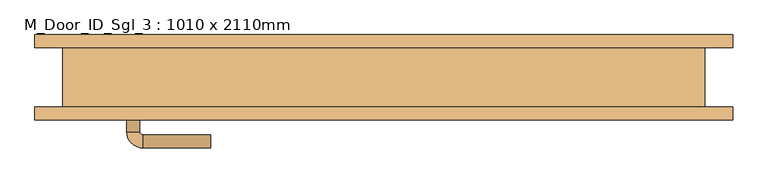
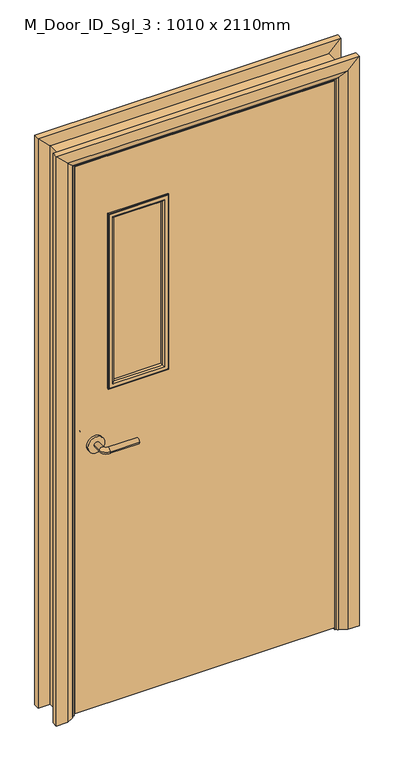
"""IFC4 building model written with IfcOpenShell, lengths in millimetres: door geometry, M_Door_ID_Sgl_3 : 1010 x 2110mm."""

from ifc_helpers import new_model, si_unit, point, frame, frame_2d, origin, place, context, project, spatial, polyline, circle_curve, ellipse_curve, trimmed, segment, composite_curve, outline, extrude, faceted_brep, source, transform, mapped, element, save
from ifc_brep_helpers import plane_surface, cylinder_surface, revolved_surface, advanced_brep


def m_door_id_sgl_3_1010_x_2110mm_74f3b16c(model_context):
    return source(origin(), model_context, "Body", "SolidModel", [
        advanced_brep(
        [(-398.0, 0.0, 1000.0), (-378.0, 0.0, 1000.0), (-398.0, 30.0, 1000.0), (-378.0, 30.0, 1000.0), (-373.0, 35.0, 1000.0), (-373.0, 55.0, 1000.0), (-268.0, 55.0, 1000.0), (-268.0, 35.0, 1000.0)],
        [
            (0, 1, circle_curve(frame((-388.0, 0.0, 1000.0), z_axis=(0.0, -1.0, 0.0), x_axis=(1.0, 0.0, 0.0)), 10.0)),
            (1, 0, circle_curve(frame((-388.0, 0.0, 1000.0), z_axis=(0.0, -1.0, 0.0), x_axis=(1.0, 0.0, 0.0)), 10.0)),
            (0, 2),
            (2, 3, circle_curve(frame((-388.0, 30.0, 1000.0), z_axis=(0.0, -1.0, 0.0), x_axis=(1.0, 0.0, 0.0)), 10.0)),
            (3, 1),
            (3, 2, circle_curve(frame((-388.0, 30.0, 1000.0), z_axis=(0.0, -1.0, 0.0), x_axis=(1.0, 0.0, 0.0)), 10.0)),
            (4, 3, circle_curve(frame((-373.0, 30.0, 1000.0), z_axis=(0.0, 0.0, 1.0), x_axis=(-1.0, 0.0, 0.0)), 5.0)),
            (2, 5, circle_curve(frame((-373.0, 30.0, 1000.0), z_axis=(0.0, 0.0, -1.0), x_axis=(-1.0, 0.0, 0.0)), 25.0)),
            (5, 4, circle_curve(frame((-373.0, 45.0, 1000.0), z_axis=(-1.0, 0.0, 0.0), x_axis=(0.0, -1.0, 0.0)), 10.0)),
            (4, 5, circle_curve(frame((-373.0, 45.0, 1000.0), z_axis=(-1.0, 0.0, 0.0), x_axis=(0.0, -1.0, 0.0)), 10.0)),
            (6, 7, circle_curve(frame((-268.0, 45.0, 1000.0), z_axis=(1.0, 0.0, 0.0), x_axis=(0.0, -1.0, 0.0)), 10.0)),
            (7, 6, circle_curve(frame((-268.0, 45.0, 1000.0), z_axis=(1.0, 0.0, 0.0), x_axis=(0.0, -1.0, 0.0)), 10.0)),
            (5, 6),
            (7, 4),
        ],
        [
            plane_surface(frame((-388.0, 0.0, 1000.0), z_axis=(0.0, -1.0, 0.0), x_axis=(0.0, 0.0, 1.0))),
            cylinder_surface(frame((-388.0, 0.0, 1000.0), z_axis=(0.0, -1.0, 0.0), x_axis=(1.0, 0.0, 0.0)), 10.0),
            revolved_surface(trimmed(ellipse_curve(frame((-388.0, 30.0, 1000.0), z_axis=(0.0, -1.0, 0.0), x_axis=(1.0, 0.0, 0.0)), 10.0, 10.0), [point((-398.0, 30.0, 1000.0))], [point((-378.0, 30.0, 1000.0))], True, "CARTESIAN"), (-373.0, 30.0, 1000.0), (0.0, 0.0, -1.0)),
            revolved_surface(trimmed(ellipse_curve(frame((-388.0, 30.0, 1000.0), z_axis=(0.0, -1.0, 0.0), x_axis=(1.0, 0.0, 0.0)), 10.0, 10.0), [point((-378.0, 30.0, 1000.0))], [point((-398.0, 30.0, 1000.0))], True, "CARTESIAN"), (-373.0, 30.0, 1000.0), (0.0, 0.0, -1.0)),
            plane_surface(frame((-268.0, 45.0, 1000.0), z_axis=(1.0, 0.0, 0.0), x_axis=(0.0, 0.0, 1.0))),
            cylinder_surface(frame((-373.0, 45.0, 1000.0), z_axis=(-1.0, 0.0, 0.0), x_axis=(0.0, -1.0, 0.0)), 10.0),
        ],
        [
            (0, [[1, 2]]),
            (1, [[-1, 3, 4, 5]]),
            (1, [[-2, -5, 6, -3]]),
            (2, [[7, -4, 8, 9]]),
            (3, [[-8, -6, -7, 10]]),
            (4, [[11, 12]]),
            (5, [[-9, 13, -12, 14]]),
            (5, [[-10, -14, -11, -13]]),
        ],
    ),
        extrude(outline(composite_curve([segment(trimmed(circle_curve(frame_2d((1000.0, -390.5)), 30.0), [point((1000.0, -420.5))], [point((1000.0, -360.5))], False, "CARTESIAN"), True, "CONTINUOUS"), segment(trimmed(circle_curve(frame_2d((1000.0, -390.5)), 30.0), [point((1000.0, -360.5))], [point((1000.0, -420.5))], False, "CARTESIAN"), True, "CONTINUOUS")], self_intersect=False)), frame((0.0, -8.0, 0.0), z_axis=(0.0, 1.0, 0.0), x_axis=(0.0, 0.0, 1.0)), (0.0, 0.0, 1.0), 8.0),
        advanced_brep(
        [(-398.0, -54.0, 1000.0), (-378.0, -54.0, 1000.0), (-378.0, -84.0, 1000.0), (-398.0, -84.0, 1000.0), (-373.0, -89.0, 1000.0), (-373.0, -109.0, 1000.0), (-268.0, -109.0, 1000.0), (-268.0, -89.0, 1000.0)],
        [
            (0, 1, circle_curve(frame((-388.0, -54.0, 1000.0), z_axis=(0.0, 1.0, 0.0), x_axis=(1.0, 0.0, 0.0)), 10.0)),
            (1, 0, circle_curve(frame((-388.0, -54.0, 1000.0), z_axis=(0.0, 1.0, 0.0), x_axis=(1.0, 0.0, 0.0)), 10.0)),
            (1, 2),
            (2, 3, circle_curve(frame((-388.0, -84.0, 1000.0), z_axis=(0.0, 1.0, 0.0), x_axis=(1.0, 0.0, 0.0)), 10.0)),
            (3, 0),
            (3, 2, circle_curve(frame((-388.0, -84.0, 1000.0), z_axis=(0.0, 1.0, 0.0), x_axis=(1.0, 0.0, 0.0)), 10.0)),
            (4, 5, circle_curve(frame((-373.0, -99.0, 1000.0), z_axis=(-1.0, 0.0, 0.0), x_axis=(0.0, 1.0, 0.0)), 10.0)),
            (5, 3, circle_curve(frame((-373.0, -84.0, 1000.0), z_axis=(0.0, 0.0, -1.0), x_axis=(-1.0, 0.0, 0.0)), 25.0)),
            (2, 4, circle_curve(frame((-373.0, -84.0, 1000.0), z_axis=(0.0, 0.0, 1.0), x_axis=(-1.0, 0.0, 0.0)), 5.0)),
            (5, 4, circle_curve(frame((-373.0, -99.0, 1000.0), z_axis=(-1.0, 0.0, 0.0), x_axis=(0.0, 1.0, 0.0)), 10.0)),
            (6, 7, circle_curve(frame((-268.0, -99.0, 1000.0), z_axis=(1.0, 0.0, 0.0), x_axis=(0.0, 1.0, 0.0)), 10.0)),
            (7, 6, circle_curve(frame((-268.0, -99.0, 1000.0), z_axis=(1.0, 0.0, 0.0), x_axis=(0.0, 1.0, 0.0)), 10.0)),
            (4, 7),
            (6, 5),
        ],
        [
            plane_surface(frame((-388.0, -54.0, 1000.0), z_axis=(0.0, 1.0, 0.0), x_axis=(0.0, 0.0, 1.0))),
            cylinder_surface(frame((-388.0, -54.0, 1000.0), z_axis=(0.0, 1.0, 0.0), x_axis=(1.0, 0.0, 0.0)), 10.0),
            revolved_surface(trimmed(ellipse_curve(frame((-388.0, -84.0, 1000.0), z_axis=(0.0, -1.0, 0.0), x_axis=(1.0, 0.0, 0.0)), 10.0, 10.0), [point((-398.0, -84.0, 1000.0))], [point((-378.0, -84.0, 1000.0))], True, "CARTESIAN"), (-373.0, -84.0, 1000.0), (0.0, 0.0, -1.0)),
            revolved_surface(trimmed(ellipse_curve(frame((-388.0, -84.0, 1000.0), z_axis=(0.0, -1.0, 0.0), x_axis=(1.0, 0.0, 0.0)), 10.0, 10.0), [point((-378.0, -84.0, 1000.0))], [point((-398.0, -84.0, 1000.0))], True, "CARTESIAN"), (-373.0, -84.0, 1000.0), (0.0, 0.0, -1.0)),
            plane_surface(frame((-268.0, -99.0, 1000.0), z_axis=(1.0, 0.0, 0.0), x_axis=(0.0, 0.0, 1.0))),
            cylinder_surface(frame((-373.0, -99.0, 1000.0), z_axis=(-1.0, 0.0, 0.0), x_axis=(0.0, 1.0, 0.0)), 10.0),
        ],
        [
            (0, [[1, 2]]),
            (1, [[3, 4, 5, -2]]),
            (1, [[-5, 6, -3, -1]]),
            (2, [[7, 8, -4, 9]]),
            (3, [[10, -9, -6, -8]]),
            (4, [[11, 12]]),
            (5, [[13, -11, 14, -7]]),
            (5, [[-14, -12, -13, -10]]),
        ],
    ),
        extrude(outline(composite_curve([segment(trimmed(circle_curve(frame_2d((1000.0, -390.5)), 30.0), [point((1000.0, -420.5))], [point((1000.0, -360.5))], False, "CARTESIAN"), True, "CONTINUOUS"), segment(trimmed(circle_curve(frame_2d((1000.0, -390.5)), 30.0), [point((1000.0, -360.5))], [point((1000.0, -420.5))], False, "CARTESIAN"), True, "CONTINUOUS")], self_intersect=False)), frame((0.0, -54.0, 0.0), z_axis=(0.0, 1.0, 0.0), x_axis=(0.0, 0.0, 1.0)), (0.0, 0.0, 1.0), 8.0),
        extrude(outline(polyline([(2068.0, -463.0), (8.0, -463.0), (8.0, 463.0), (2068.0, 463.0), (2068.0, -463.0)]), holes=[polyline([(1843.0, -138.0), (1200.0, -138.0), (1200.0, -338.0), (1843.0, -338.0), (1843.0, -138.0)])]), frame((0.0, -46.0, 0.0), z_axis=(0.0, 1.0, 0.0), x_axis=(0.0, 0.0, 1.0)), (0.0, 0.0, 1.0), 38.0),
        faceted_brep([(-465.0, -46.0, 0.0), (-497.0, -46.0, 0.0), (-497.0, 46.0, 0.0), (-465.0, 46.0, 0.0), (-465.0, 46.0, 2070.0), (-465.0, -46.0, 2070.0), (-497.0, 46.0, 2102.0), (-497.0, -46.0, 2102.0), (465.0, -46.0, 0.0), (465.0, 46.0, 0.0), (497.0, 46.0, 0.0), (497.0, -46.0, 0.0), (465.0, -46.0, 2070.0), (497.0, -46.0, 2102.0), (497.0, 46.0, 2102.0), (465.0, 46.0, 2070.0)], [[[0, 1, 2, 3]], [[3, 4, 5, 0]], [[2, 6, 4, 3]], [[1, 7, 6, 2]], [[0, 5, 7, 1]], [[8, 9, 10, 11]], [[12, 8, 11, 13]], [[13, 11, 10, 14]], [[14, 10, 9, 15]], [[15, 9, 8, 12]], [[4, 15, 12, 5]], [[6, 14, 15, 4]], [[7, 13, 14, 6]], [[5, 12, 13, 7]]]),
        advanced_brep(
        [(-540.0, 66.0, 0.0), (-500.0, 66.0, 0.0), (-474.0, 52.0, 0.0), (-470.0, 46.0, 0.0), (-540.0, 46.0, 0.0), (-540.0, 46.0, 2145.0), (-540.0, 66.0, 2145.0), (-470.0, 46.0, 2075.0), (-474.0, 52.0, 2079.0), (-500.0, 66.0, 2105.0), (540.0, 66.0, 0.0), (540.0, 46.0, 0.0), (470.0, 46.0, 0.0), (474.0, 52.0, 0.0), (500.0, 66.0, 0.0), (540.0, 66.0, 2145.0), (500.0, 66.0, 2105.0), (474.0, 52.0, 2079.0), (470.0, 46.0, 2075.0), (540.0, 46.0, 2145.0)],
        [
            (0, 1),
            (1, 2),
            (2, 3, circle_curve(frame((-478.0, 45.0, 0.0), z_axis=(0.0, 0.0, -1.0), x_axis=(-1.0, 0.0, 0.0)), 8.0622577)),
            (3, 4),
            (4, 0),
            (4, 5),
            (5, 6),
            (6, 0),
            (3, 7),
            (7, 5),
            (2, 8),
            (8, 7, ellipse_curve(frame((-478.0, 45.0, 2083.0), z_axis=(-0.7071067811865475, 0.0, -0.7071067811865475), x_axis=(0.7071067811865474, 0.0, -0.7071067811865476)), 11.4017543, 8.0622577)),
            (1, 9),
            (9, 8),
            (6, 9),
            (10, 11),
            (11, 12),
            (12, 13, circle_curve(frame((478.0, 45.0, 0.0), z_axis=(0.0, 0.0, -1.0), x_axis=(1.0, 0.0, 0.0)), 8.0622577)),
            (13, 14),
            (14, 10),
            (15, 10),
            (14, 16),
            (16, 15),
            (13, 17),
            (17, 16),
            (12, 18),
            (18, 17, ellipse_curve(frame((478.0, 45.0, 2083.0), z_axis=(0.7071067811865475, 0.0, -0.7071067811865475), x_axis=(0.7071067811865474, 0.0, 0.7071067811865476)), 11.4017543, 8.0622577)),
            (11, 19),
            (19, 18),
            (15, 19),
            (5, 19),
            (15, 6),
            (7, 18),
            (8, 17),
            (9, 16),
        ],
        [
            plane_surface(frame((-470.0, 118.8010989, 0.0), z_axis=(0.0, 0.0, -1.0), x_axis=(1.0, 0.0, 0.0))),
            plane_surface(frame((-540.0, 66.0, 0.0), z_axis=(-1.0, 0.0, 0.0), x_axis=(0.0, 0.0, 1.0))),
            plane_surface(frame((-540.0, 46.0, 0.0), z_axis=(0.0, -1.0, 0.0), x_axis=(0.0, 0.0, 1.0))),
            cylinder_surface(frame((-478.0, 45.0, 0.0), z_axis=(0.0, 0.0, -1.0), x_axis=(-1.0, 0.0, 0.0)), 8.0622577),
            plane_surface(frame((-474.0, 52.0, 0.0), z_axis=(0.4740998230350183, 0.8804710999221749, 0.0), x_axis=(0.0, 0.0, 1.0))),
            plane_surface(frame((-500.0, 66.0, 0.0), z_axis=(0.0, 1.0, 0.0), x_axis=(0.0, 0.0, 1.0))),
            plane_surface(frame((470.0, 118.8010989, 0.0), z_axis=(0.0, 0.0, -1.0), x_axis=(-1.0, 0.0, 0.0))),
            plane_surface(frame((500.0, 66.0, 2105.0), z_axis=(0.0, 1.0, 0.0), x_axis=(0.0, 0.0, -1.0))),
            plane_surface(frame((474.0, 52.0, 2079.0), z_axis=(-0.4740998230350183, 0.8804710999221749, 0.0), x_axis=(0.0, 0.0, -1.0))),
            cylinder_surface(frame((478.0, 45.0, 2075.0), z_axis=(0.0, 0.0, 1.0), x_axis=(1.0, 0.0, 0.0)), 8.0622577),
            plane_surface(frame((540.0, 46.0, 2145.0), z_axis=(0.0, -1.0, 0.0), x_axis=(0.0, 0.0, -1.0))),
            plane_surface(frame((540.0, 66.0, 2145.0), z_axis=(1.0, 0.0, 0.0), x_axis=(0.0, 0.0, -1.0))),
            plane_surface(frame((-540.0, 66.0, 2145.0), z_axis=(0.0, 0.0, 1.0), x_axis=(1.0, 0.0, 0.0))),
            plane_surface(frame((-540.0, 46.0, 2145.0), z_axis=(0.0, -1.0, 0.0), x_axis=(1.0, 0.0, 0.0))),
            cylinder_surface(frame((-470.0, 45.0, 2083.0), z_axis=(-1.0, 0.0, 0.0), x_axis=(0.0, 0.0, 1.0)), 8.0622577),
            plane_surface(frame((-474.0, 52.0, 2079.0), z_axis=(0.0, 0.8804710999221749, -0.4740998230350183), x_axis=(1.0, 0.0, 0.0))),
            plane_surface(frame((-500.0, 66.0, 2105.0), z_axis=(0.0, 1.0, 0.0), x_axis=(1.0, 0.0, 0.0))),
        ],
        [
            (0, [[1, 2, 3, 4, 5]]),
            (1, [[6, 7, 8, -5]]),
            (2, [[9, 10, -6, -4]]),
            (3, [[11, 12, -9, -3]]),
            (4, [[13, 14, -11, -2]]),
            (5, [[-8, 15, -13, -1]]),
            (6, [[16, 17, 18, 19, 20]]),
            (7, [[21, -20, 22, 23]]),
            (8, [[-22, -19, 24, 25]]),
            (9, [[-24, -18, 26, 27]]),
            (10, [[-26, -17, 28, 29]]),
            (11, [[-28, -16, -21, 30]]),
            (12, [[31, -30, 32, -7]]),
            (13, [[33, -29, -31, -10]]),
            (14, [[34, -27, -33, -12]]),
            (15, [[35, -25, -34, -14]]),
            (16, [[-32, -23, -35, -15]]),
        ],
    ),
        advanced_brep(
        [(-540.0, -66.0, 0.0), (-540.0, -46.0, 0.0), (-470.0, -46.0, 0.0), (-474.0, -52.0, 0.0), (-500.0, -66.0, 0.0), (-500.0, -66.0, 2105.0), (-540.0, -66.0, 2145.0), (-474.0, -52.0, 2079.0), (-470.0, -46.0, 2075.0), (-540.0, -46.0, 2145.0), (540.0, -66.0, 0.0), (500.0, -66.0, 0.0), (474.0, -52.0, 0.0), (470.0, -46.0, 0.0), (540.0, -46.0, 0.0), (540.0, -66.0, 2145.0), (540.0, -46.0, 2145.0), (470.0, -46.0, 2075.0), (474.0, -52.0, 2079.0), (500.0, -66.0, 2105.0)],
        [
            (0, 1),
            (1, 2),
            (2, 3, circle_curve(frame((-478.0, -45.0, 0.0), z_axis=(0.0, 0.0, -1.0), x_axis=(-1.0, 0.0, 0.0)), 8.0622577)),
            (3, 4),
            (4, 0),
            (4, 5),
            (5, 6),
            (6, 0),
            (3, 7),
            (7, 5),
            (2, 8),
            (8, 7, ellipse_curve(frame((-478.0, -45.0, 2083.0), z_axis=(-0.7071067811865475, 0.0, -0.7071067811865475), x_axis=(0.7071067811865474, 0.0, -0.7071067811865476)), 11.4017543, 8.0622577)),
            (1, 9),
            (9, 8),
            (6, 9),
            (10, 11),
            (11, 12),
            (12, 13, circle_curve(frame((478.0, -45.0, 0.0), z_axis=(0.0, 0.0, -1.0), x_axis=(1.0, 0.0, 0.0)), 8.0622577)),
            (13, 14),
            (14, 10),
            (15, 10),
            (14, 16),
            (16, 15),
            (13, 17),
            (17, 16),
            (12, 18),
            (18, 17, ellipse_curve(frame((478.0, -45.0, 2083.0), z_axis=(0.7071067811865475, 0.0, -0.7071067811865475), x_axis=(0.7071067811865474, 0.0, 0.7071067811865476)), 11.4017543, 8.0622577)),
            (11, 19),
            (19, 18),
            (15, 19),
            (5, 19),
            (15, 6),
            (7, 18),
            (8, 17),
            (9, 16),
        ],
        [
            plane_surface(frame((-470.0, 26.8010989, 0.0), z_axis=(0.0, 0.0, -1.0), x_axis=(1.0, 0.0, 0.0))),
            plane_surface(frame((-540.0, -66.0, 0.0), z_axis=(0.0, -1.0, 0.0), x_axis=(0.0, 0.0, 1.0))),
            plane_surface(frame((-500.0, -66.0, 0.0), z_axis=(0.4740998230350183, -0.8804710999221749, 0.0), x_axis=(0.0, 0.0, 1.0))),
            cylinder_surface(frame((-478.0, -45.0, 0.0), z_axis=(0.0, 0.0, -1.0), x_axis=(-1.0, 0.0, 0.0)), 8.0622577),
            plane_surface(frame((-470.0, -46.0, 0.0), z_axis=(0.0, 1.0, 0.0), x_axis=(0.0, 0.0, 1.0))),
            plane_surface(frame((-540.0, -46.0, 0.0), z_axis=(-1.0, 0.0, 0.0), x_axis=(0.0, 0.0, 1.0))),
            plane_surface(frame((470.0, 26.8010989, 0.0), z_axis=(0.0, 0.0, -1.0), x_axis=(-1.0, 0.0, 0.0))),
            plane_surface(frame((540.0, -46.0, 2145.0), z_axis=(1.0, 0.0, 0.0), x_axis=(0.0, 0.0, -1.0))),
            plane_surface(frame((470.0, -46.0, 2075.0), z_axis=(0.0, 1.0, 0.0), x_axis=(0.0, 0.0, -1.0))),
            cylinder_surface(frame((478.0, -45.0, 2075.0), z_axis=(0.0, 0.0, 1.0), x_axis=(1.0, 0.0, 0.0)), 8.0622577),
            plane_surface(frame((500.0, -66.0, 2105.0), z_axis=(-0.4740998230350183, -0.8804710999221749, 0.0), x_axis=(0.0, 0.0, -1.0))),
            plane_surface(frame((540.0, -66.0, 2145.0), z_axis=(0.0, -1.0, 0.0), x_axis=(0.0, 0.0, -1.0))),
            plane_surface(frame((-540.0, -66.0, 2145.0), z_axis=(0.0, -1.0, 0.0), x_axis=(1.0, 0.0, 0.0))),
            plane_surface(frame((-500.0, -66.0, 2105.0), z_axis=(0.0, -0.8804710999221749, -0.4740998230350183), x_axis=(1.0, 0.0, 0.0))),
            cylinder_surface(frame((-470.0, -45.0, 2083.0), z_axis=(-1.0, 0.0, 0.0), x_axis=(0.0, 0.0, 1.0)), 8.0622577),
            plane_surface(frame((-470.0, -46.0, 2075.0), z_axis=(0.0, 1.0, 0.0), x_axis=(1.0, 0.0, 0.0))),
            plane_surface(frame((-540.0, -46.0, 2145.0), z_axis=(0.0, 0.0, 1.0), x_axis=(1.0, 0.0, 0.0))),
        ],
        [
            (0, [[1, 2, 3, 4, 5]]),
            (1, [[6, 7, 8, -5]]),
            (2, [[9, 10, -6, -4]]),
            (3, [[11, 12, -9, -3]]),
            (4, [[13, 14, -11, -2]]),
            (5, [[-8, 15, -13, -1]]),
            (6, [[16, 17, 18, 19, 20]]),
            (7, [[21, -20, 22, 23]]),
            (8, [[-22, -19, 24, 25]]),
            (9, [[-24, -18, 26, 27]]),
            (10, [[-26, -17, 28, 29]]),
            (11, [[-28, -16, -21, 30]]),
            (12, [[31, -30, 32, -7]]),
            (13, [[33, -29, -31, -10]]),
            (14, [[34, -27, -33, -12]]),
            (15, [[35, -25, -34, -14]]),
            (16, [[-32, -23, -35, -15]]),
        ],
    ),
        extrude(outline(polyline([(0.0, -446.0), (2051.0, -446.0), (2051.0, 446.0), (0.0, 446.0), (0.0, 465.0), (2070.0, 465.0), (2070.0, -465.0), (0.0, -465.0), (0.0, -446.0)])), frame((0.0, -6.0, 0.0), z_axis=(0.0, 1.0, 0.0), x_axis=(0.0, 0.0, 1.0)), (0.0, 0.0, 1.0), 32.0),
        advanced_brep(
        [(-130.0, -50.0, 1851.0), (-130.0, -50.0, 1192.0), (-130.0, -46.0, 1192.0), (-130.0, -46.0, 1851.0), (-132.0, -52.0, 1849.0), (-132.0, -52.0, 1194.0), (-150.0, -47.0, 1831.0), (-150.0, -47.0, 1212.0), (-145.0, -52.0, 1207.0), (-145.0, -52.0, 1836.0), (-150.0, -36.0, 1831.0), (-150.0, -36.0, 1212.0), (-138.0, -46.0, 1843.0), (-138.0, -46.0, 1200.0), (-138.0, -36.0, 1200.0), (-138.0, -36.0, 1843.0), (-346.0, -50.0, 1192.0), (-346.0, -46.0, 1192.0), (-344.0, -52.0, 1194.0), (-326.0, -47.0, 1212.0), (-331.0, -52.0, 1207.0), (-326.0, -36.0, 1212.0), (-338.0, -46.0, 1200.0), (-338.0, -36.0, 1200.0), (-346.0, -50.0, 1851.0), (-346.0, -46.0, 1851.0), (-344.0, -52.0, 1849.0), (-326.0, -47.0, 1831.0), (-331.0, -52.0, 1836.0), (-326.0, -36.0, 1831.0), (-338.0, -46.0, 1843.0), (-338.0, -36.0, 1843.0)],
        [
            (0, 1),
            (1, 2),
            (2, 3),
            (3, 0),
            (4, 5),
            (5, 1, ellipse_curve(frame((-132.0, -50.0, 1194.0), z_axis=(0.7071067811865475, 0.0, 0.7071067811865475), x_axis=(-0.7071067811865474, 0.0, 0.7071067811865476)), 2.8284271, 2.0)),
            (0, 4, ellipse_curve(frame((-132.0, -50.0, 1849.0), z_axis=(0.7071067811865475, 0.0, -0.7071067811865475), x_axis=(0.7071067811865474, 0.0, 0.7071067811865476)), 2.8284271, 2.0)),
            (6, 7),
            (7, 8, ellipse_curve(frame((-145.0, -47.0, 1207.0), z_axis=(0.7071067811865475, 0.0, 0.7071067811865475), x_axis=(-0.7071067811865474, 0.0, 0.7071067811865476)), 7.0710678, 5.0)),
            (8, 9),
            (9, 6, ellipse_curve(frame((-145.0, -47.0, 1836.0), z_axis=(0.7071067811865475, 0.0, -0.7071067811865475), x_axis=(0.7071067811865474, 0.0, 0.7071067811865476)), 7.0710678, 5.0)),
            (10, 11),
            (11, 7),
            (6, 10),
            (12, 13),
            (13, 14),
            (14, 15),
            (15, 12),
            (1, 16),
            (16, 17),
            (17, 2),
            (5, 18),
            (18, 16, ellipse_curve(frame((-344.0, -50.0, 1194.0), z_axis=(0.7071067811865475, 0.0, -0.7071067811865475), x_axis=(0.7071067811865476, 0.0, 0.7071067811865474)), 2.8284271, 2.0)),
            (7, 19),
            (19, 20, ellipse_curve(frame((-331.0, -47.0, 1207.0), z_axis=(0.7071067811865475, 0.0, -0.7071067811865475), x_axis=(0.7071067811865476, 0.0, 0.7071067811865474)), 7.0710678, 5.0)),
            (20, 8),
            (11, 21),
            (21, 19),
            (13, 22),
            (22, 23),
            (23, 14),
            (16, 24),
            (24, 25),
            (25, 17),
            (18, 26),
            (26, 24, ellipse_curve(frame((-344.0, -50.0, 1849.0), z_axis=(-0.7071067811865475, 0.0, -0.7071067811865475), x_axis=(0.7071067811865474, 0.0, -0.7071067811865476)), 2.8284271, 2.0)),
            (19, 27),
            (27, 28, ellipse_curve(frame((-331.0, -47.0, 1836.0), z_axis=(-0.7071067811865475, 0.0, -0.7071067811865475), x_axis=(0.7071067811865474, 0.0, -0.7071067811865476)), 7.0710678, 5.0)),
            (28, 20),
            (21, 29),
            (29, 27),
            (22, 30),
            (30, 31),
            (31, 23),
            (24, 0),
            (3, 25),
            (26, 4),
            (28, 9),
            (27, 6),
            (29, 10),
            (31, 15),
            (30, 12),
        ],
        [
            plane_surface(frame((-130.0, -46.0, 1851.0), z_axis=(1.0, 0.0, 0.0), x_axis=(0.0, 0.0, -1.0))),
            cylinder_surface(frame((-132.0, -50.0, 1843.0), z_axis=(0.0, 0.0, 1.0), x_axis=(1.0, 0.0, 0.0)), 2.0),
            cylinder_surface(frame((-145.0, -47.0, 1843.0), z_axis=(0.0, 0.0, 1.0), x_axis=(1.0, 0.0, 0.0)), 5.0),
            plane_surface(frame((-150.0, -47.0, 1831.0), z_axis=(-1.0, 0.0, 0.0), x_axis=(0.0, 0.0, -1.0))),
            plane_surface(frame((-138.0, -36.0, 1843.0), z_axis=(1.0, 0.0, 0.0), x_axis=(0.0, 0.0, -1.0))),
            plane_surface(frame((-130.0, -46.0, 1192.0), z_axis=(0.0, 0.0, -1.0), x_axis=(-1.0, 0.0, 0.0))),
            cylinder_surface(frame((-138.0, -50.0, 1194.0), z_axis=(1.0, 0.0, 0.0), x_axis=(0.0, 0.0, -1.0)), 2.0),
            cylinder_surface(frame((-138.0, -47.0, 1207.0), z_axis=(1.0, 0.0, 0.0), x_axis=(0.0, 0.0, -1.0)), 5.0),
            plane_surface(frame((-150.0, -47.0, 1212.0), z_axis=(0.0, 0.0, 1.0), x_axis=(-1.0, 0.0, 0.0))),
            plane_surface(frame((-138.0, -36.0, 1200.0), z_axis=(0.0, 0.0, -1.0), x_axis=(-1.0, 0.0, 0.0))),
            plane_surface(frame((-346.0, -46.0, 1192.0), z_axis=(-1.0, 0.0, 0.0), x_axis=(0.0, 0.0, 1.0))),
            cylinder_surface(frame((-344.0, -50.0, 1200.0), z_axis=(0.0, 0.0, -1.0), x_axis=(-1.0, 0.0, 0.0)), 2.0),
            cylinder_surface(frame((-331.0, -47.0, 1200.0), z_axis=(0.0, 0.0, -1.0), x_axis=(-1.0, 0.0, 0.0)), 5.0),
            plane_surface(frame((-326.0, -47.0, 1212.0), z_axis=(1.0, 0.0, 0.0), x_axis=(0.0, 0.0, 1.0))),
            plane_surface(frame((-338.0, -36.0, 1200.0), z_axis=(-1.0, 0.0, 0.0), x_axis=(0.0, 0.0, 1.0))),
            plane_surface(frame((-346.0, -46.0, 1851.0), z_axis=(0.0, 0.0, 1.0), x_axis=(1.0, 0.0, 0.0))),
            cylinder_surface(frame((-338.0, -50.0, 1849.0), z_axis=(-1.0, 0.0, 0.0), x_axis=(0.0, 0.0, 1.0)), 2.0),
            plane_surface(frame((-344.0, -52.0, 1849.0), z_axis=(0.0, -1.0, 0.0), x_axis=(1.0, 0.0, 0.0))),
            cylinder_surface(frame((-338.0, -47.0, 1836.0), z_axis=(-1.0, 0.0, 0.0), x_axis=(0.0, 0.0, 1.0)), 5.0),
            plane_surface(frame((-326.0, -47.0, 1831.0), z_axis=(0.0, 0.0, -1.0), x_axis=(1.0, 0.0, 0.0))),
            plane_surface(frame((-326.0, -36.0, 1831.0), z_axis=(0.0, 1.0, 0.0), x_axis=(1.0, 0.0, 0.0))),
            plane_surface(frame((-338.0, -36.0, 1843.0), z_axis=(0.0, 0.0, 1.0), x_axis=(1.0, 0.0, 0.0))),
            plane_surface(frame((-338.0, -46.0, 1843.0), z_axis=(0.0, 1.0, 0.0), x_axis=(1.0, 0.0, 0.0))),
        ],
        [
            (0, [[1, 2, 3, 4]]),
            (1, [[5, 6, -1, 7]]),
            (2, [[8, 9, 10, 11]]),
            (3, [[12, 13, -8, 14]]),
            (4, [[15, 16, 17, 18]]),
            (5, [[19, 20, 21, -2]]),
            (6, [[22, 23, -19, -6]]),
            (7, [[24, 25, 26, -9]]),
            (8, [[27, 28, -24, -13]]),
            (9, [[29, 30, 31, -16]]),
            (10, [[32, 33, 34, -20]]),
            (11, [[35, 36, -32, -23]]),
            (12, [[37, 38, 39, -25]]),
            (13, [[40, 41, -37, -28]]),
            (14, [[42, 43, 44, -30]]),
            (15, [[45, -4, 46, -33]]),
            (16, [[47, -7, -45, -36]]),
            (17, [[-5, -47, -35, -22], [-10, -26, -39, 48]]),
            (18, [[49, -11, -48, -38]]),
            (19, [[50, -14, -49, -41]]),
            (20, [[-17, -31, -44, 51], [-12, -50, -40, -27]]),
            (21, [[52, -18, -51, -43]]),
            (22, [[-3, -21, -34, -46], [-15, -52, -42, -29]]),
        ],
    ),
        advanced_brep(
        [(-138.0, -18.0, 1843.0), (-138.0, -18.0, 1200.0), (-138.0, -8.0, 1200.0), (-138.0, -8.0, 1843.0), (-150.0, -7.0, 1831.0), (-150.0, -7.0, 1212.0), (-150.0, -18.0, 1212.0), (-150.0, -18.0, 1831.0), (-145.0, -2.0, 1836.0), (-145.0, -2.0, 1207.0), (-130.0, -4.0, 1851.0), (-130.0, -4.0, 1192.0), (-132.0, -2.0, 1194.0), (-132.0, -2.0, 1849.0), (-130.0, -8.0, 1851.0), (-130.0, -8.0, 1192.0), (-338.0, -18.0, 1200.0), (-338.0, -8.0, 1200.0), (-326.0, -7.0, 1212.0), (-326.0, -18.0, 1212.0), (-331.0, -2.0, 1207.0), (-346.0, -4.0, 1192.0), (-344.0, -2.0, 1194.0), (-346.0, -8.0, 1192.0), (-338.0, -18.0, 1843.0), (-338.0, -8.0, 1843.0), (-326.0, -7.0, 1831.0), (-326.0, -18.0, 1831.0), (-331.0, -2.0, 1836.0), (-346.0, -4.0, 1851.0), (-344.0, -2.0, 1849.0), (-346.0, -8.0, 1851.0)],
        [
            (0, 1),
            (1, 2),
            (2, 3),
            (3, 0),
            (4, 5),
            (5, 6),
            (6, 7),
            (7, 4),
            (8, 9),
            (9, 5, ellipse_curve(frame((-145.0, -7.0, 1207.0), z_axis=(0.7071067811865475, 0.0, 0.7071067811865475), x_axis=(-0.7071067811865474, 0.0, 0.7071067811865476)), 7.0710678, 5.0)),
            (4, 8, ellipse_curve(frame((-145.0, -7.0, 1836.0), z_axis=(0.7071067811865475, 0.0, -0.7071067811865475), x_axis=(0.7071067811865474, 0.0, 0.7071067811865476)), 7.0710678, 5.0)),
            (10, 11),
            (11, 12, ellipse_curve(frame((-132.0, -4.0, 1194.0), z_axis=(0.7071067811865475, 0.0, 0.7071067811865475), x_axis=(-0.7071067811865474, 0.0, 0.7071067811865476)), 2.8284271, 2.0)),
            (12, 13),
            (13, 10, ellipse_curve(frame((-132.0, -4.0, 1849.0), z_axis=(0.7071067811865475, 0.0, -0.7071067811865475), x_axis=(0.7071067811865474, 0.0, 0.7071067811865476)), 2.8284271, 2.0)),
            (14, 15),
            (15, 11),
            (10, 14),
            (1, 16),
            (16, 17),
            (17, 2),
            (5, 18),
            (18, 19),
            (19, 6),
            (9, 20),
            (20, 18, ellipse_curve(frame((-331.0, -7.0, 1207.0), z_axis=(0.7071067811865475, 0.0, -0.7071067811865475), x_axis=(0.7071067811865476, 0.0, 0.7071067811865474)), 7.0710678, 5.0)),
            (11, 21),
            (21, 22, ellipse_curve(frame((-344.0, -4.0, 1194.0), z_axis=(0.7071067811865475, 0.0, -0.7071067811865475), x_axis=(0.7071067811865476, 0.0, 0.7071067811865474)), 2.8284271, 2.0)),
            (22, 12),
            (15, 23),
            (23, 21),
            (16, 24),
            (24, 25),
            (25, 17),
            (18, 26),
            (26, 27),
            (27, 19),
            (20, 28),
            (28, 26, ellipse_curve(frame((-331.0, -7.0, 1836.0), z_axis=(-0.7071067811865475, 0.0, -0.7071067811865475), x_axis=(0.7071067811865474, 0.0, -0.7071067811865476)), 7.0710678, 5.0)),
            (21, 29),
            (29, 30, ellipse_curve(frame((-344.0, -4.0, 1849.0), z_axis=(-0.7071067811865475, 0.0, -0.7071067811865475), x_axis=(0.7071067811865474, 0.0, -0.7071067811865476)), 2.8284271, 2.0)),
            (30, 22),
            (23, 31),
            (31, 29),
            (14, 31),
            (25, 3),
            (24, 0),
            (27, 7),
            (26, 4),
            (28, 8),
            (30, 13),
            (29, 10),
        ],
        [
            plane_surface(frame((-138.0, -8.0, 1843.0), z_axis=(1.0, 0.0, 0.0), x_axis=(0.0, 0.0, -1.0))),
            plane_surface(frame((-150.0, -18.0, 1831.0), z_axis=(-1.0, 0.0, 0.0), x_axis=(0.0, 0.0, -1.0))),
            cylinder_surface(frame((-145.0, -7.0, 1843.0), z_axis=(0.0, 0.0, 1.0), x_axis=(1.0, 0.0, 0.0)), 5.0),
            cylinder_surface(frame((-132.0, -4.0, 1843.0), z_axis=(0.0, 0.0, 1.0), x_axis=(1.0, 0.0, 0.0)), 2.0),
            plane_surface(frame((-130.0, -4.0, 1851.0), z_axis=(1.0, 0.0, 0.0), x_axis=(0.0, 0.0, -1.0))),
            plane_surface(frame((-138.0, -8.0, 1200.0), z_axis=(0.0, 0.0, -1.0), x_axis=(-1.0, 0.0, 0.0))),
            plane_surface(frame((-150.0, -18.0, 1212.0), z_axis=(0.0, 0.0, 1.0), x_axis=(-1.0, 0.0, 0.0))),
            cylinder_surface(frame((-138.0, -7.0, 1207.0), z_axis=(1.0, 0.0, 0.0), x_axis=(0.0, 0.0, -1.0)), 5.0),
            cylinder_surface(frame((-138.0, -4.0, 1194.0), z_axis=(1.0, 0.0, 0.0), x_axis=(0.0, 0.0, -1.0)), 2.0),
            plane_surface(frame((-130.0, -4.0, 1192.0), z_axis=(0.0, 0.0, -1.0), x_axis=(-1.0, 0.0, 0.0))),
            plane_surface(frame((-338.0, -8.0, 1200.0), z_axis=(-1.0, 0.0, 0.0), x_axis=(0.0, 0.0, 1.0))),
            plane_surface(frame((-326.0, -18.0, 1212.0), z_axis=(1.0, 0.0, 0.0), x_axis=(0.0, 0.0, 1.0))),
            cylinder_surface(frame((-331.0, -7.0, 1200.0), z_axis=(0.0, 0.0, -1.0), x_axis=(-1.0, 0.0, 0.0)), 5.0),
            cylinder_surface(frame((-344.0, -4.0, 1200.0), z_axis=(0.0, 0.0, -1.0), x_axis=(-1.0, 0.0, 0.0)), 2.0),
            plane_surface(frame((-346.0, -4.0, 1192.0), z_axis=(-1.0, 0.0, 0.0), x_axis=(0.0, 0.0, 1.0))),
            plane_surface(frame((-346.0, -8.0, 1851.0), z_axis=(0.0, -1.0, 0.0), x_axis=(1.0, 0.0, 0.0))),
            plane_surface(frame((-338.0, -8.0, 1843.0), z_axis=(0.0, 0.0, 1.0), x_axis=(1.0, 0.0, 0.0))),
            plane_surface(frame((-338.0, -18.0, 1843.0), z_axis=(0.0, -1.0, 0.0), x_axis=(1.0, 0.0, 0.0))),
            plane_surface(frame((-326.0, -18.0, 1831.0), z_axis=(0.0, 0.0, -1.0), x_axis=(1.0, 0.0, 0.0))),
            cylinder_surface(frame((-338.0, -7.0, 1836.0), z_axis=(-1.0, 0.0, 0.0), x_axis=(0.0, 0.0, 1.0)), 5.0),
            plane_surface(frame((-331.0, -2.0, 1836.0), z_axis=(0.0, 1.0, 0.0), x_axis=(1.0, 0.0, 0.0))),
            cylinder_surface(frame((-338.0, -4.0, 1849.0), z_axis=(-1.0, 0.0, 0.0), x_axis=(0.0, 0.0, 1.0)), 2.0),
            plane_surface(frame((-346.0, -4.0, 1851.0), z_axis=(0.0, 0.0, 1.0), x_axis=(1.0, 0.0, 0.0))),
        ],
        [
            (0, [[1, 2, 3, 4]]),
            (1, [[5, 6, 7, 8]]),
            (2, [[9, 10, -5, 11]]),
            (3, [[12, 13, 14, 15]]),
            (4, [[16, 17, -12, 18]]),
            (5, [[19, 20, 21, -2]]),
            (6, [[22, 23, 24, -6]]),
            (7, [[25, 26, -22, -10]]),
            (8, [[27, 28, 29, -13]]),
            (9, [[30, 31, -27, -17]]),
            (10, [[32, 33, 34, -20]]),
            (11, [[35, 36, 37, -23]]),
            (12, [[38, 39, -35, -26]]),
            (13, [[40, 41, 42, -28]]),
            (14, [[43, 44, -40, -31]]),
            (15, [[-16, 45, -43, -30], [-3, -21, -34, 46]]),
            (16, [[47, -4, -46, -33]]),
            (17, [[-1, -47, -32, -19], [-7, -24, -37, 48]]),
            (18, [[49, -8, -48, -36]]),
            (19, [[50, -11, -49, -39]]),
            (20, [[-14, -29, -42, 51], [-9, -50, -38, -25]]),
            (21, [[52, -15, -51, -41]]),
            (22, [[-45, -18, -52, -44]]),
        ],
    ),
        extrude(outline(polyline([(-338.0, -36.0), (-338.0, -18.0), (-138.0, -18.0), (-138.0, -36.0), (-338.0, -36.0)])), frame((0.0, 0.0, 1200.0), z_axis=(0.0, 0.0, 1.0), x_axis=(1.0, 0.0, 0.0)), (0.0, 0.0, 1.0), 643.0),
    ])


if __name__ == "__main__":
    model = new_model("IFC4")
    model_context = context("Model", 3, world=origin())
    ifc_project = project(units=[si_unit("LENGTHUNIT", "METRE", prefix="MILLI")], contexts=[model_context])
    site = spatial("IfcSite", under=ifc_project)
    building = spatial("IfcBuilding", under=site)
    placement = place(None, origin())
    m_door_id_sgl_3_1010_x_2110mm_shape = m_door_id_sgl_3_1010_x_2110mm_74f3b16c(model_context)
    element("IfcDoor", 1, ObjectType="M_Door_ID_Sgl_3 : 1010 x 2110mm", at=placement, inside=building, context=model_context, shape_type="MappedRepresentation", body=[
        mapped(m_door_id_sgl_3_1010_x_2110mm_shape, transform((0.0, 0.0, 0.0), x_axis=(1.0, 0.0, 0.0), y_axis=(0.0, 1.0, 0.0), z_axis=(0.0, 0.0, 1.0))),
    ])
    save(model, "model.ifc")
